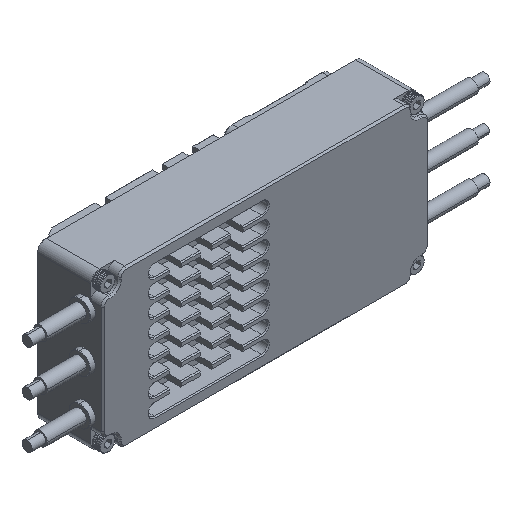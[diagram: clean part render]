
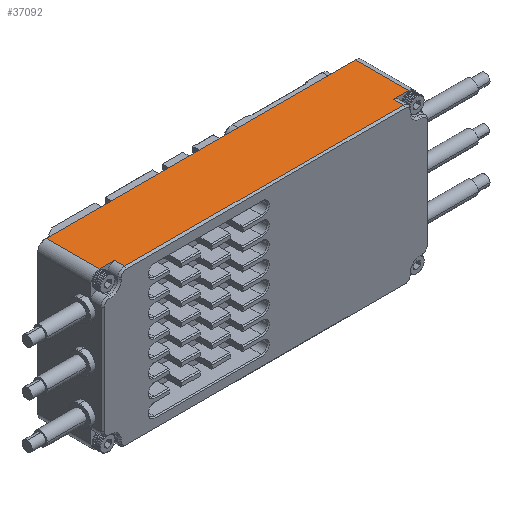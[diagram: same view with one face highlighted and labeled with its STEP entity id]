
A CAD part, isometric view. The second image highlights one B-rep face of the part: STEP entity #37092.
In plain terms, the highlighted planar face has unit normal (0, 0, 1).
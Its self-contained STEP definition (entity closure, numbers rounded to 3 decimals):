
#648=DIRECTION('',(1.,0.,0.));
#649=VECTOR('',#648,4.5);
#650=CARTESIAN_POINT('',(41.25,-7.3,23.));
#651=LINE('',#650,#649);
#680=DIRECTION('',(1.,0.,0.));
#681=VECTOR('',#680,4.5);
#682=CARTESIAN_POINT('',(-45.75,-7.3,23.));
#683=LINE('',#682,#681);
#5087=DIRECTION('',(0.,1.,0.));
#5088=VECTOR('',#5087,15.7);
#5089=CARTESIAN_POINT('',(45.75,-7.3,23.));
#5090=LINE('',#5089,#5088);
#5096=DIRECTION('',(0.,1.,0.));
#5097=VECTOR('',#5096,3.);
#5098=CARTESIAN_POINT('',(41.25,-10.3,23.));
#5099=LINE('',#5098,#5097);
#5100=DIRECTION('',(-1.,0.,0.));
#5101=VECTOR('',#5100,82.5);
#5102=CARTESIAN_POINT('',(41.25,-10.3,23.));
#5103=LINE('',#5102,#5101);
#5104=DIRECTION('',(0.,-1.,0.));
#5105=VECTOR('',#5104,3.);
#5106=CARTESIAN_POINT('',(-41.25,-7.3,23.));
#5107=LINE('',#5106,#5105);
#5108=DIRECTION('',(1.,0.,0.));
#5109=VECTOR('',#5108,91.5);
#5110=CARTESIAN_POINT('',(-45.75,8.4,23.));
#5111=LINE('',#5110,#5109);
#12852=DIRECTION('',(0.,-1.,0.));
#12853=VECTOR('',#12852,15.7);
#12854=CARTESIAN_POINT('',(-45.75,8.4,
23.));
#12855=LINE('',#12854,#12853);
#23507=CARTESIAN_POINT('',(-45.75,8.4,23.));
#23509=VERTEX_POINT('',#23507);
#23512=CARTESIAN_POINT('',(45.75,8.4,23.));
#23513=VERTEX_POINT('',#23512);
#24776=CARTESIAN_POINT('',(41.25,-10.3,
23.));
#24777=CARTESIAN_POINT('',(-41.25,-10.3,
23.));
#24778=VERTEX_POINT('',#24776);
#24779=VERTEX_POINT('',#24777);
#25574=CARTESIAN_POINT('',(41.25,-7.3,23.));
#25575=VERTEX_POINT('',#25574);
#25576=CARTESIAN_POINT('',(-41.25,-7.3,23.));
#25577=VERTEX_POINT('',#25576);
#25592=CARTESIAN_POINT('',(-45.75,-7.3,23.));
#25593=VERTEX_POINT('',#25592);
#25594=CARTESIAN_POINT('',(45.75,-7.3,23.));
#25595=VERTEX_POINT('',#25594);
#37073=CARTESIAN_POINT('',(-48.25,0.,23.));
#37074=DIRECTION('',(0.,0.,1.));
#37075=DIRECTION('',(1.,0.,0.));
#37076=AXIS2_PLACEMENT_3D('',#37073,#37074,#37075);
#37077=PLANE('',#37076);
#37078=ORIENTED_EDGE('',*,*,#37067,.F.);
#37079=ORIENTED_EDGE('',*,*,#30615,.F.);
#37081=ORIENTED_EDGE('',*,*,#37080,.F.);
#37083=ORIENTED_EDGE('',*,*,#37082,.T.);
#37085=ORIENTED_EDGE('',*,*,#37084,.F.);
#37086=ORIENTED_EDGE('',*,*,#30674,.F.);
#37088=ORIENTED_EDGE('',*,*,#37087,.F.);
#37089=ORIENTED_EDGE('',*,*,#37028,.T.);
#37090=EDGE_LOOP('',(#37078,#37079,#37081,#37083,#37085,#37086,#37088,#37089));
#37091=FACE_OUTER_BOUND('',#37090,.F.);
#37092=ADVANCED_FACE('',(#37091),#37077,.T.);
#30615=EDGE_CURVE('',#25575,#25595,#651,.T.);
#30674=EDGE_CURVE('',#25593,#25577,#683,.T.);
#37028=EDGE_CURVE('',#23509,#23513,#5111,.T.);
#37067=EDGE_CURVE('',#25595,#23513,#5090,.T.);
#37080=EDGE_CURVE('',#24778,#25575,#5099,.T.);
#37082=EDGE_CURVE('',#24778,#24779,#5103,.T.);
#37084=EDGE_CURVE('',#25577,#24779,#5107,.T.);
#37087=EDGE_CURVE('',#23509,#25593,#12855,.T.);
